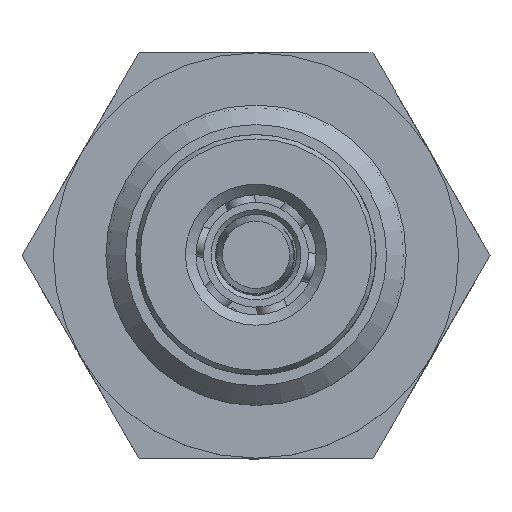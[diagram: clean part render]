
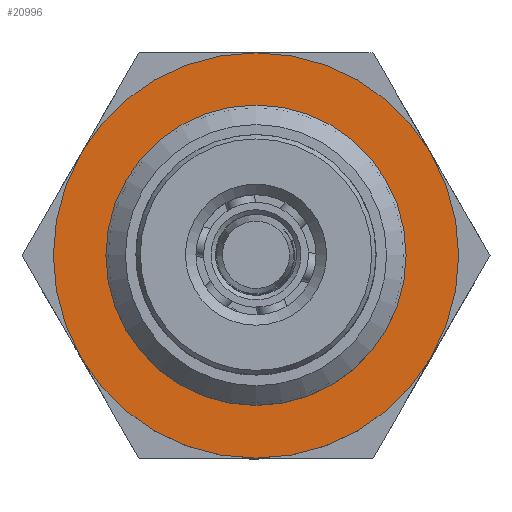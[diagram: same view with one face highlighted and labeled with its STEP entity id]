
A CAD part, top view. The second image highlights one B-rep face of the part: STEP entity #20996.
In plain terms, the highlighted planar face has unit normal (0, 0, 1).
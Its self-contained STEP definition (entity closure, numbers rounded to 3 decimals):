
#598 = CIRCLE ( 'NONE', #861, 8.5 ) ;
#861 = AXIS2_PLACEMENT_3D ( 'NONE', #18959, #5575, #6956 ) ;
#2134 = DIRECTION ( 'NONE',  ( 1., 0., 0. ) ) ;
#3848 = EDGE_LOOP ( 'NONE', ( #19521 ) ) ;
#4815 = EDGE_LOOP ( 'NONE', ( #21400 ) ) ;
#4817 = AXIS2_PLACEMENT_3D ( 'NONE', #15954, #22096, #2134 ) ;
#5575 = DIRECTION ( 'NONE',  ( 0., 0., 1. ) ) ;
#6313 = CARTESIAN_POINT ( 'NONE',  ( 0., 0., 9. ) ) ;
#6956 = DIRECTION ( 'NONE',  ( 1., 0., 0. ) ) ;
#8039 = CIRCLE ( 'NONE', #4817, 13.5 ) ;
#10637 = DIRECTION ( 'NONE',  ( 0., 0., 1. ) ) ;
#12567 = PLANE ( 'NONE',  #22989 ) ;
#12588 = CARTESIAN_POINT ( 'NONE',  ( 8.5, 0., 9. ) ) ;
#13063 = VERTEX_POINT ( 'NONE', #12588 ) ;
#15954 = CARTESIAN_POINT ( 'NONE',  ( 0., 0., 9. ) ) ;
#16319 = EDGE_CURVE ( 'NONE', #13063, #13063, #598, .T. ) ;
#18959 = CARTESIAN_POINT ( 'NONE',  ( 0., 0., 9. ) ) ;
#19521 = ORIENTED_EDGE ( 'NONE', *, *, #16319, .F. ) ;
#19647 = FACE_BOUND ( 'NONE', #3848, .T. ) ;
#20996 = ADVANCED_FACE ( 'NONE', ( #24326, #19647 ), #12567, .T. ) ;
#21400 = ORIENTED_EDGE ( 'NONE', *, *, #22255, .T. ) ;
#22096 = DIRECTION ( 'NONE',  ( 0., 0., 1. ) ) ;
#22255 = EDGE_CURVE ( 'NONE', #25305, #25305, #8039, .T. ) ;
#22989 = AXIS2_PLACEMENT_3D ( 'NONE', #6313, #10637, #24585 ) ;
#23671 = CARTESIAN_POINT ( 'NONE',  ( 13.5, 0., 9. ) ) ;
#24326 = FACE_OUTER_BOUND ( 'NONE', #4815, .T. ) ;
#24585 = DIRECTION ( 'NONE',  ( 1., 0., 0. ) ) ;
#25305 = VERTEX_POINT ( 'NONE', #23671 ) ;
